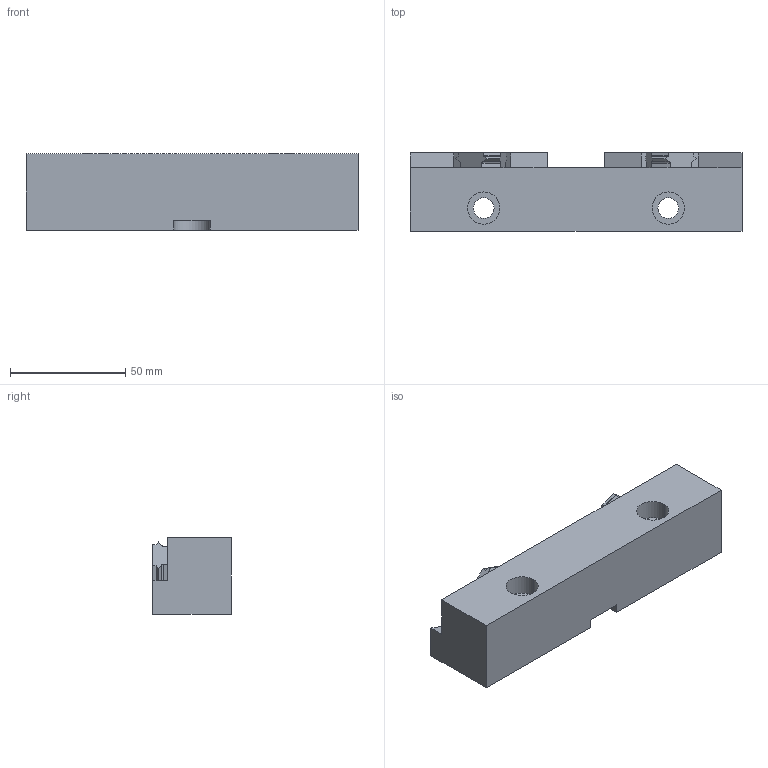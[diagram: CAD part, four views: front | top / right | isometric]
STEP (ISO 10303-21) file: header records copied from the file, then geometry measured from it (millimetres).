
FILE_DESCRIPTION (( 'STEP AP214' ), '1' );
FILE_NAME ('51111.STEP', '2022-05-16T07:48:42', ( '' ), ( '' ), 'SwSTEP 2.0', 'SolidWorks 2021', '' );
FILE_SCHEMA (( 'AUTOMOTIVE_DESIGN' ));
Length unit declared in the file: millimetre
Products named in the file (3): 51111; 51111-01; 51111-02
Assembly tree (3 placements, depth 2):
  51111
    51111-01
    51111-02  x2
Bounding box: 144 x 34 x 33 mm (x, y, z)
Volume: 132346.6 mm3; surface area: 26595.2 mm2
Topology: 3 solids, 3 shells, 136 faces, 384 edges, 256 vertices
Faces by surface type: plane 103, cylinder 33
Entity records: 3541 total; most frequent: CARTESIAN_POINT 690, ORIENTED_EDGE 606, DIRECTION 523, EDGE_CURVE 303, LINE 261, VECTOR 261, VERTEX_POINT 202, AXIS2_PLACEMENT_3D 131
